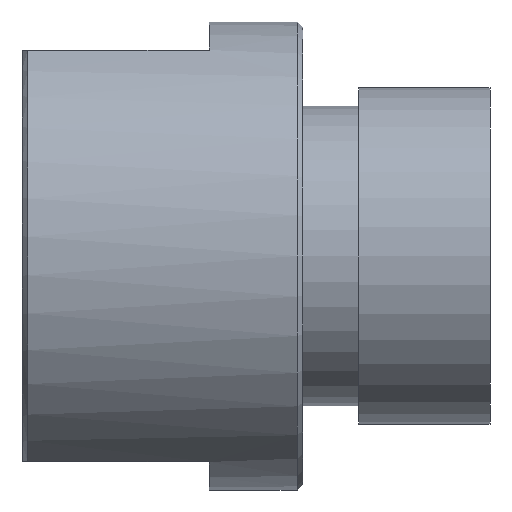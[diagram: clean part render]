
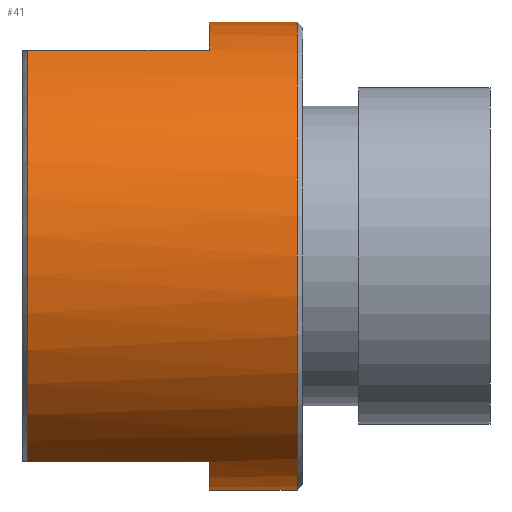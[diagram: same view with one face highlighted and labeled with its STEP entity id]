
A CAD part, left-side view. The second image highlights one B-rep face of the part: STEP entity #41.
In plain terms, the highlighted cylindrical face has radius 12.5 mm (diameter 25 mm), a partial arc.
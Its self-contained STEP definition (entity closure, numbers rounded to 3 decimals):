
#7 = CARTESIAN_POINT ( 'NONE',  ( -5.937, 14.7, -11. ) ) ;
#36 = CARTESIAN_POINT ( 'NONE',  ( -5.937, 5., -11. ) ) ;
#41 = ADVANCED_FACE ( 'NONE', ( #328 ), #724, .T. ) ;
#46 = VERTEX_POINT ( 'NONE', #7 ) ;
#61 = EDGE_LOOP ( 'NONE', ( #777, #375, #757, #396, #131, #166, #726, #192 ) ) ;
#78 = AXIS2_PLACEMENT_3D ( 'NONE', #469, #738, #595 ) ;
#81 = LINE ( 'NONE', #173, #240 ) ;
#112 = CARTESIAN_POINT ( 'NONE',  ( 0., 15., -12.5 ) ) ;
#120 = VECTOR ( 'NONE', #486, 1000. ) ;
#123 = CARTESIAN_POINT ( 'NONE',  ( 0., 0.3, 0. ) ) ;
#131 = ORIENTED_EDGE ( 'NONE', *, *, #512, .F. ) ;
#136 = CARTESIAN_POINT ( 'NONE',  ( -5.937, 14.7, 11. ) ) ;
#166 = ORIENTED_EDGE ( 'NONE', *, *, #257, .F. ) ;
#172 = VERTEX_POINT ( 'NONE', #136 ) ;
#173 = CARTESIAN_POINT ( 'NONE',  ( -5.937, 15., -11. ) ) ;
#188 = VECTOR ( 'NONE', #424, 1000. ) ;
#192 = ORIENTED_EDGE ( 'NONE', *, *, #345, .T. ) ;
#201 = AXIS2_PLACEMENT_3D ( 'NONE', #756, #225, #294 ) ;
#225 = DIRECTION ( 'NONE',  ( 0., -1., 0. ) ) ;
#235 = DIRECTION ( 'NONE',  ( 0., 1., 0. ) ) ;
#240 = VECTOR ( 'NONE', #235, 1000. ) ;
#244 = CARTESIAN_POINT ( 'NONE',  ( 0., 0.3, 12.5 ) ) ;
#257 = EDGE_CURVE ( 'NONE', #583, #678, #397, .T. ) ;
#262 = CARTESIAN_POINT ( 'NONE',  ( 0., 5., 0. ) ) ;
#274 = CIRCLE ( 'NONE', #333, 12.5 ) ;
#279 = VERTEX_POINT ( 'NONE', #544 ) ;
#294 = DIRECTION ( 'NONE',  ( 0., 0., 1. ) ) ;
#297 = DIRECTION ( 'NONE',  ( 0., 1., 0. ) ) ;
#300 = LINE ( 'NONE', #361, #120 ) ;
#320 = AXIS2_PLACEMENT_3D ( 'NONE', #123, #789, #647 ) ;
#328 = FACE_OUTER_BOUND ( 'NONE', #61, .T. ) ;
#333 = AXIS2_PLACEMENT_3D ( 'NONE', #262, #341, #868 ) ;
#341 = DIRECTION ( 'NONE',  ( 0., -1., 0. ) ) ;
#345 = EDGE_CURVE ( 'NONE', #800, #633, #617, .T. ) ;
#361 = CARTESIAN_POINT ( 'NONE',  ( -5.937, 15., 11. ) ) ;
#375 = ORIENTED_EDGE ( 'NONE', *, *, #383, .T. ) ;
#383 = EDGE_CURVE ( 'NONE', #846, #279, #274, .T. ) ;
#396 = ORIENTED_EDGE ( 'NONE', *, *, #426, .T. ) ;
#397 = CIRCLE ( 'NONE', #497, 12.5 ) ;
#420 = DIRECTION ( 'NONE',  ( -1., 0., 0. ) ) ;
#424 = DIRECTION ( 'NONE',  ( 0., -1., 0. ) ) ;
#426 = EDGE_CURVE ( 'NONE', #172, #46, #549, .T. ) ;
#431 = CARTESIAN_POINT ( 'NONE',  ( 0., 15., 12.5 ) ) ;
#469 = CARTESIAN_POINT ( 'NONE',  ( 0., 15., 0. ) ) ;
#472 = CARTESIAN_POINT ( 'NONE',  ( 0., 0.3, -12.5 ) ) ;
#486 = DIRECTION ( 'NONE',  ( 0., -1., 0. ) ) ;
#497 = AXIS2_PLACEMENT_3D ( 'NONE', #679, #297, #420 ) ;
#502 = EDGE_CURVE ( 'NONE', #172, #279, #300, .T. ) ;
#512 = EDGE_CURVE ( 'NONE', #678, #46, #81, .T. ) ;
#517 = EDGE_CURVE ( 'NONE', #846, #633, #533, .T. ) ;
#533 = LINE ( 'NONE', #431, #559 ) ;
#536 = EDGE_CURVE ( 'NONE', #583, #800, #587, .T. ) ;
#544 = CARTESIAN_POINT ( 'NONE',  ( -5.937, 5., 11. ) ) ;
#549 = CIRCLE ( 'NONE', #201, 12.5 ) ;
#559 = VECTOR ( 'NONE', #762, 1000. ) ;
#583 = VERTEX_POINT ( 'NONE', #843 ) ;
#587 = LINE ( 'NONE', #112, #188 ) ;
#595 = DIRECTION ( 'NONE',  ( 0., 0., -1. ) ) ;
#617 = CIRCLE ( 'NONE', #320, 12.5 ) ;
#633 = VERTEX_POINT ( 'NONE', #244 ) ;
#647 = DIRECTION ( 'NONE',  ( 0., 0., 1. ) ) ;
#678 = VERTEX_POINT ( 'NONE', #36 ) ;
#679 = CARTESIAN_POINT ( 'NONE',  ( 0., 5., 0. ) ) ;
#724 = CYLINDRICAL_SURFACE ( 'NONE', #78, 12.5 ) ;
#726 = ORIENTED_EDGE ( 'NONE', *, *, #536, .T. ) ;
#738 = DIRECTION ( 'NONE',  ( 0., -1., 0. ) ) ;
#756 = CARTESIAN_POINT ( 'NONE',  ( 0., 14.7, 0. ) ) ;
#757 = ORIENTED_EDGE ( 'NONE', *, *, #502, .F. ) ;
#762 = DIRECTION ( 'NONE',  ( 0., -1., 0. ) ) ;
#777 = ORIENTED_EDGE ( 'NONE', *, *, #517, .F. ) ;
#789 = DIRECTION ( 'NONE',  ( 0., 1., 0. ) ) ;
#798 = CARTESIAN_POINT ( 'NONE',  ( 0., 5., 12.5 ) ) ;
#800 = VERTEX_POINT ( 'NONE', #472 ) ;
#843 = CARTESIAN_POINT ( 'NONE',  ( 0., 5., -12.5 ) ) ;
#846 = VERTEX_POINT ( 'NONE', #798 ) ;
#868 = DIRECTION ( 'NONE',  ( 0., 0., -1. ) ) ;
